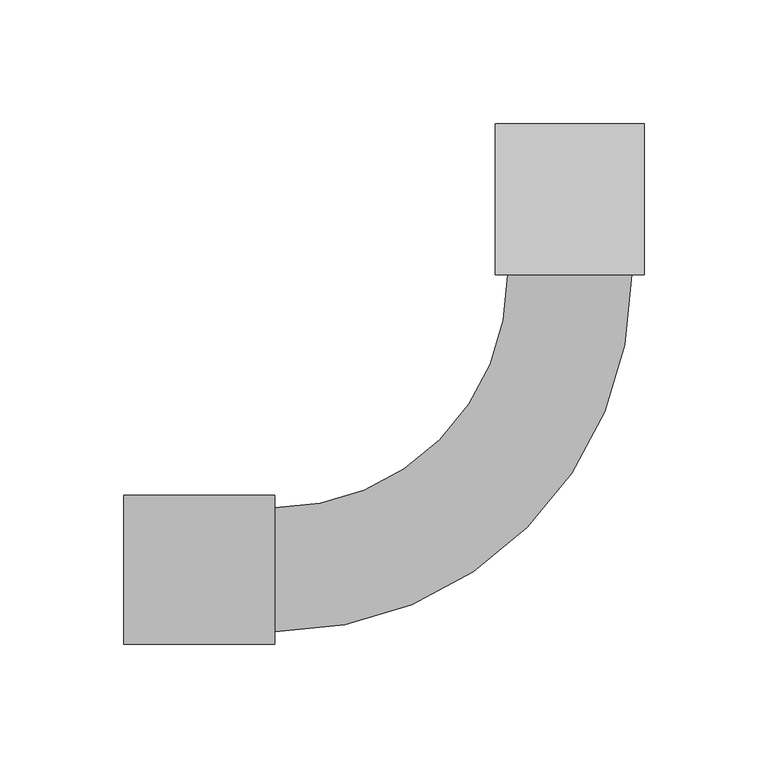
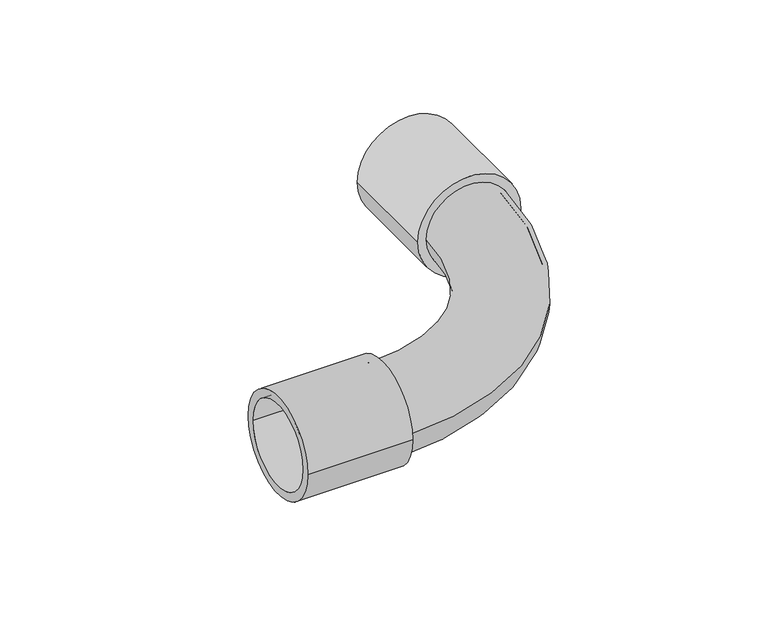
"""IFC4 building model written with IfcOpenShell, lengths in millimetres: cable carrier fitting geometry, КНС_ПоворотНа90ГрадусовТрубаТруба_IP67_DKC : Коробка."""

from ifc_helpers import new_model, si_unit, point, frame, origin, origin_2d, place, context, project, spatial, circle_curve, ellipse_curve, trimmed, segment, composite_curve, outline, extrude, source, transform, mapped, element, save
from ifc_brep_helpers import plane_surface, revolved_surface, advanced_brep


def cable_carrier_fitting_06a44238(model_context):
    return source(origin(), model_context, "Body", "SolidModel", [
        advanced_brep(
        [(-119.0, -25.0, 0.0), (-119.0, 25.0, 0.0), (-119.0, -22.5, 0.0), (-119.0, 22.5, 0.0), (25.0, 119.0, 0.0), (-25.0, 119.0, 0.0), (22.5, 119.0, 0.0), (-22.5, 119.0, 0.0)],
        [
            (0, 1, circle_curve(frame((-119.0, 0.0, 0.0), z_axis=(-1.0, 0.0, 0.0), x_axis=(0.0, 1.0, 0.0)), 25.0)),
            (1, 0, circle_curve(frame((-119.0, 0.0, 0.0), z_axis=(-1.0, 0.0, 0.0), x_axis=(0.0, 1.0, 0.0)), 25.0)),
            (2, 3, circle_curve(frame((-119.0, 0.0, 0.0), z_axis=(1.0, 0.0, 0.0), x_axis=(0.0, 1.0, 0.0)), 22.5)),
            (3, 2, circle_curve(frame((-119.0, 0.0, 0.0), z_axis=(1.0, 0.0, 0.0), x_axis=(0.0, 1.0, 0.0)), 22.5)),
            (4, 5, circle_curve(frame((0.0, 119.0, 0.0), z_axis=(0.0, 1.0, 0.0), x_axis=(-1.0, 0.0, 0.0)), 25.0)),
            (5, 4, circle_curve(frame((0.0, 119.0, 0.0), z_axis=(0.0, 1.0, 0.0), x_axis=(-1.0, 0.0, 0.0)), 25.0)),
            (6, 7, circle_curve(frame((0.0, 119.0, 0.0), z_axis=(0.0, -1.0, 0.0), x_axis=(-1.0, 0.0, 0.0)), 22.5)),
            (7, 6, circle_curve(frame((0.0, 119.0, 0.0), z_axis=(0.0, -1.0, 0.0), x_axis=(-1.0, 0.0, 0.0)), 22.5)),
            (5, 1, circle_curve(frame((-119.0, 119.0, 0.0), z_axis=(0.0, 0.0, -1.0), x_axis=(0.0, -1.0, 0.0)), 94.0)),
            (0, 4, circle_curve(frame((-119.0, 119.0, 0.0), z_axis=(0.0, 0.0, 1.0), x_axis=(0.0, -1.0, 0.0)), 144.0)),
            (7, 3, circle_curve(frame((-119.0, 119.0, 0.0), z_axis=(0.0, 0.0, -1.0), x_axis=(0.0, -1.0, 0.0)), 96.5)),
            (2, 6, circle_curve(frame((-119.0, 119.0, 0.0), z_axis=(0.0, 0.0, 1.0), x_axis=(0.0, -1.0, 0.0)), 141.5)),
        ],
        [
            plane_surface(frame((-119.0, 0.0, 0.0), z_axis=(-1.0, 0.0, 0.0), x_axis=(0.0, 0.0, 1.0))),
            plane_surface(frame((0.0, 119.0, 0.0), z_axis=(0.0, 1.0, 0.0), x_axis=(0.0, 0.0, 1.0))),
            revolved_surface(trimmed(ellipse_curve(frame((-119.0, 0.0, 0.0), z_axis=(-1.0, 0.0, 0.0), x_axis=(0.0, 1.0, 0.0)), 25.0, 25.0), [point((-119.0, -25.0, 0.0))], [point((-119.0, 25.0, 0.0))], True, "CARTESIAN"), (-119.0, 119.0, 0.0), (0.0, 0.0, 1.0)),
            revolved_surface(trimmed(ellipse_curve(frame((-119.0, 0.0, 0.0), z_axis=(-1.0, 0.0, 0.0), x_axis=(0.0, 1.0, 0.0)), 25.0, 25.0), [point((-119.0, 25.0, 0.0))], [point((-119.0, -25.0, 0.0))], True, "CARTESIAN"), (-119.0, 119.0, 0.0), (0.0, 0.0, 1.0)),
            revolved_surface(trimmed(ellipse_curve(frame((-119.0, 0.0, 0.0), z_axis=(1.0, 0.0, 0.0), x_axis=(0.0, 1.0, 0.0)), 22.5, 22.5), [point((-119.0, -22.5, 0.0))], [point((-119.0, 22.5, 0.0))], True, "CARTESIAN"), (-119.0, 119.0, 0.0), (0.0, 0.0, 1.0)),
            revolved_surface(trimmed(ellipse_curve(frame((-119.0, 0.0, 0.0), z_axis=(1.0, 0.0, 0.0), x_axis=(0.0, 1.0, 0.0)), 22.5, 22.5), [point((-119.0, 22.5, 0.0))], [point((-119.0, -22.5, 0.0))], True, "CARTESIAN"), (-119.0, 119.0, 0.0), (0.0, 0.0, 1.0)),
        ],
        [
            (0, [[1, 2], [3, 4]]),
            (1, [[5, 6], [7, 8]]),
            (2, [[9, -1, 10, -6]]),
            (3, [[-10, -2, -9, -5]]),
            (4, [[11, -3, 12, -8]]),
            (5, [[-12, -4, -11, -7]]),
        ],
    ),
        extrude(outline(composite_curve([segment(trimmed(circle_curve(origin_2d(), 30.0), [point((0.0, 30.0))], [point((0.0, -30.0))], False, "CARTESIAN"), True, "CONTINUOUS"), segment(trimmed(circle_curve(origin_2d(), 30.0), [point((0.0, -30.0))], [point((0.0, 30.0))], False, "CARTESIAN"), True, "CONTINUOUS")], self_intersect=False), holes=[composite_curve([segment(trimmed(circle_curve(origin_2d(), 25.0), [point((0.0, 25.0))], [point((0.0, -25.0))], True, "CARTESIAN"), True, "CONTINUOUS"), segment(trimmed(circle_curve(origin_2d(), 25.0), [point((0.0, -25.0))], [point((0.0, 25.0))], True, "CARTESIAN"), True, "CONTINUOUS")], self_intersect=False)]), frame((0.0, 119.0, 0.0), z_axis=(0.0, 1.0, 0.0), x_axis=(0.0, 0.0, 1.0)), (0.0, 0.0, 1.0), 61.0),
        extrude(outline(composite_curve([segment(trimmed(circle_curve(origin_2d(), 30.0), [point((-30.0, 0.0))], [point((30.0, 0.0))], False, "CARTESIAN"), True, "CONTINUOUS"), segment(trimmed(circle_curve(origin_2d(), 30.0), [point((30.0, 0.0))], [point((-30.0, 0.0))], False, "CARTESIAN"), True, "CONTINUOUS")], self_intersect=False), holes=[composite_curve([segment(trimmed(circle_curve(origin_2d(), 25.0), [point((-25.0, 0.0))], [point((25.0, 0.0))], True, "CARTESIAN"), True, "CONTINUOUS"), segment(trimmed(circle_curve(origin_2d(), 25.0), [point((25.0, 0.0))], [point((-25.0, 0.0))], True, "CARTESIAN"), True, "CONTINUOUS")], self_intersect=False)]), frame((-180.0, 0.0, 0.0), z_axis=(1.0, 0.0, 0.0), x_axis=(0.0, 1.0, 0.0)), (0.0, 0.0, 1.0), 61.0),
    ])


if __name__ == "__main__":
    model = new_model("IFC4")
    model_context = context("Model", 3, world=origin())
    ifc_project = project(units=[si_unit("LENGTHUNIT", "METRE", prefix="MILLI")], contexts=[model_context])
    site = spatial("IfcSite", under=ifc_project)
    building = spatial("IfcBuilding", under=site)
    placement = place(None, origin())
    cable_carrier_fitting_shape = cable_carrier_fitting_06a44238(model_context)
    element("IfcCableCarrierFitting", 1, ObjectType="КНС_ПоворотНа90ГрадусовТрубаТруба_IP67_DKC : Коробка", at=placement, inside=building, context=model_context, shape_type="MappedRepresentation", body=[
        mapped(cable_carrier_fitting_shape, transform((0.0, 0.0, 0.0), x_axis=(1.0, 0.0, 0.0), y_axis=(0.0, 1.0, 0.0), z_axis=(0.0, 0.0, 1.0))),
    ])
    save(model, "model.ifc")
